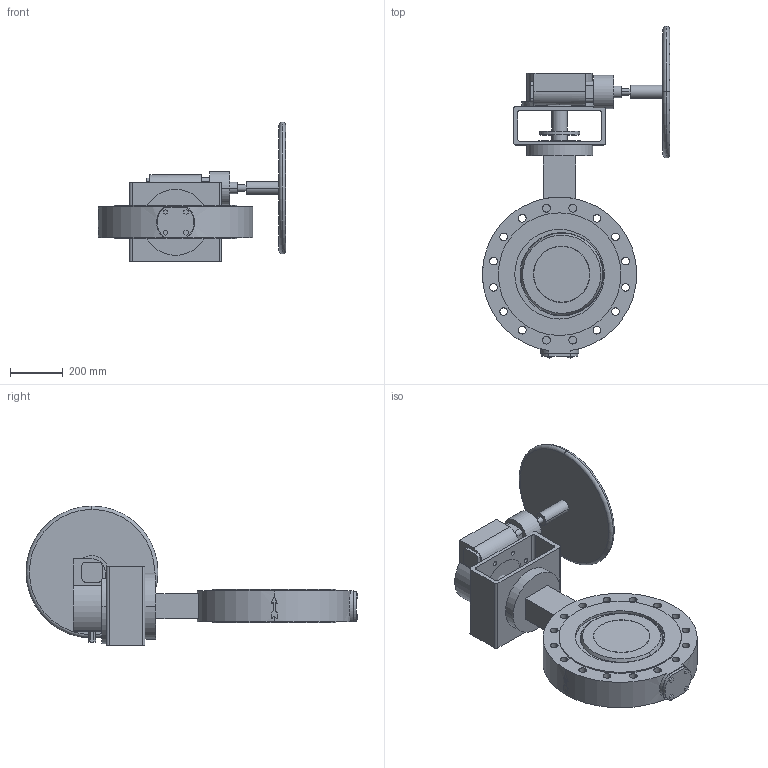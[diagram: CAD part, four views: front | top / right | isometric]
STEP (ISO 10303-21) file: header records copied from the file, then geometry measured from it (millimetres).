
FILE_DESCRIPTION( ( '' ), '1' );
FILE_NAME( 'F:/DE-SHS/TB/OR/04-Sonstiges/daten/Excel/mneugeba/018_ZETRIX-PN40_Getriebe-Rotork/c000006457.stp', '2016-09-19T06:43:21', ( '' ), ( '' ), ' ', ' ', ' ' );
FILE_SCHEMA( ( 'CONFIG_CONTROL_DESIGN' ) );
Length unit declared in the file: millimetre
Products named in the file (2): 1; 2
Bounding box: 709.5 x 1258.4 x 530 mm (x, y, z)
Volume: 48606936.2 mm3; surface area: 2600924.3 mm2
Topology: 2 solids, 2 shells, 305 faces, 789 edges, 526 vertices
Faces by surface type: cylinder 152, plane 141, cone 4, sphere 4, torus 4
Entity records: 10463 total; most frequent: CARTESIAN_POINT 2523, DIRECTION 1711, ORIENTED_EDGE 1578, EDGE_CURVE 789, AXIS2_PLACEMENT_3D 652, VERTEX_POINT 526, LINE 407, VECTOR 407
